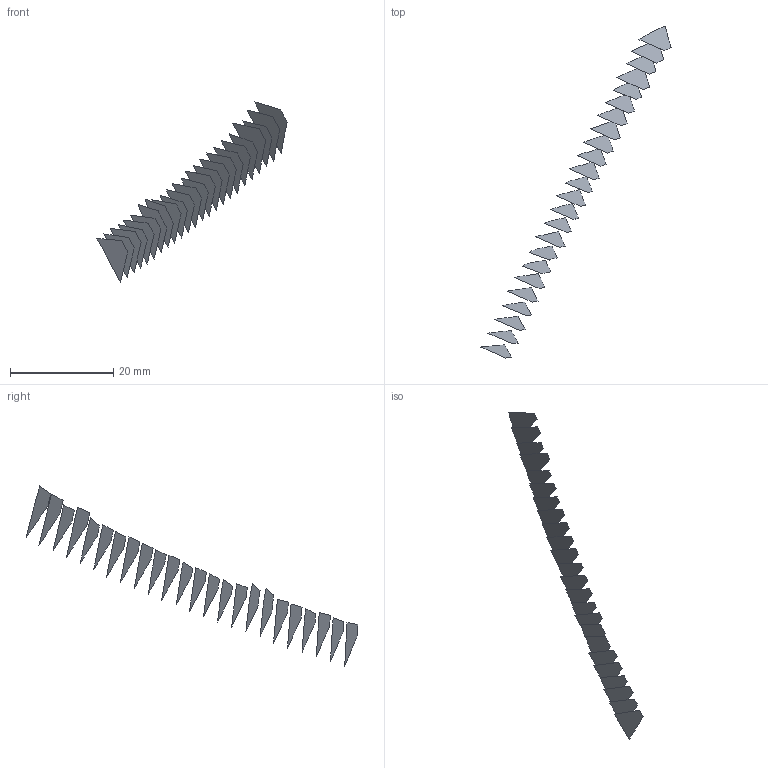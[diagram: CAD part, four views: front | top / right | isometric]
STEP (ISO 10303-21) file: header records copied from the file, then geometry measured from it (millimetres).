
FILE_DESCRIPTION(('FreeCAD Model'),'2;1');
FILE_NAME('Open CASCADE Shape Model','2022-05-22T07:50:21',('FreeCAD'),( 'FreeCAD'),'Open CASCADE STEP processor 7.5','FreeCAD','Unknown');
FILE_SCHEMA(('AUTOMOTIVE_DESIGN { 1 0 10303 214 1 1 1 1 }'));
Length unit declared in the file: millimetre
Products named in the file (25): Open CASCADE STEP translator 7.5 19; Open CASCADE STEP translator 7.5 19.1; Open CASCADE STEP translator 7.5 19.2; Open CASCADE STEP translator 7.5 19.3; Open CASCADE STEP translator 7.5 19.4; Open CASCADE STEP translator 7.5 19.5; Open CASCADE STEP translator 7.5 19.6; Open CASCADE STEP translator 7.5 19.7; Open CASCADE STEP translator 7.5 19.8; Open CASCADE STEP translator 7.5 19.9; Open CASCADE STEP translator 7.5 19.10; Open CASCADE STEP translator 7.5 19.11; Open CASCADE STEP translator 7.5 19.12; Open CASCADE STEP translator 7.5 19.13; Open CASCADE STEP translator 7.5 19.14; Open CASCADE STEP translator 7.5 19.15; Open CASCADE STEP translator 7.5 19.16; Open CASCADE STEP translator 7.5 19.17; Open CASCADE STEP translator 7.5 19.18; Open CASCADE STEP translator 7.5 19.19; Open CASCADE STEP translator 7.5 19.20; Open CASCADE STEP translator 7.5 19.21; Open CASCADE STEP translator 7.5 19.22; Open CASCADE STEP translator 7.5 19.23; Open CASCADE STEP translator 7.5 19.24
Assembly tree (24 placements, depth 2):
  Open CASCADE STEP translator 7.5 19
    Open CASCADE STEP translator 7.5 19.1
    Open CASCADE STEP translator 7.5 19.2
    Open CASCADE STEP translator 7.5 19.3
    Open CASCADE STEP translator 7.5 19.4
    Open CASCADE STEP translator 7.5 19.5
    Open CASCADE STEP translator 7.5 19.6
    Open CASCADE STEP translator 7.5 19.7
    Open CASCADE STEP translator 7.5 19.8
    Open CASCADE STEP translator 7.5 19.9
    Open CASCADE STEP translator 7.5 19.10
    Open CASCADE STEP translator 7.5 19.11
    Open CASCADE STEP translator 7.5 19.12
    Open CASCADE STEP translator 7.5 19.13
    Open CASCADE STEP translator 7.5 19.14
    Open CASCADE STEP translator 7.5 19.15
    Open CASCADE STEP translator 7.5 19.16
    Open CASCADE STEP translator 7.5 19.17
    Open CASCADE STEP translator 7.5 19.18
    Open CASCADE STEP translator 7.5 19.19
    Open CASCADE STEP translator 7.5 19.20
    Open CASCADE STEP translator 7.5 19.21
    Open CASCADE STEP translator 7.5 19.22
    Open CASCADE STEP translator 7.5 19.23
    Open CASCADE STEP translator 7.5 19.24
Bounding box: 36.77 x 64.13 x 34.84 mm (x, y, z)
Surface area: 662.2 mm2 (no closed solid volume)
Topology: 0 solids, 24 shells, 24 faces, 273 edges, 273 vertices
Faces by surface type: bspline 24
Entity records: 4237 total; most frequent: CARTESIAN_POINT 1486, B_SPLINE_CURVE_WITH_KNOTS 546, ORIENTED_EDGE 273, EDGE_CURVE 273, VERTEX_POINT 273, SURFACE_CURVE 273, PCURVE 273, DEFINITIONAL_REPRESENTATION 273
